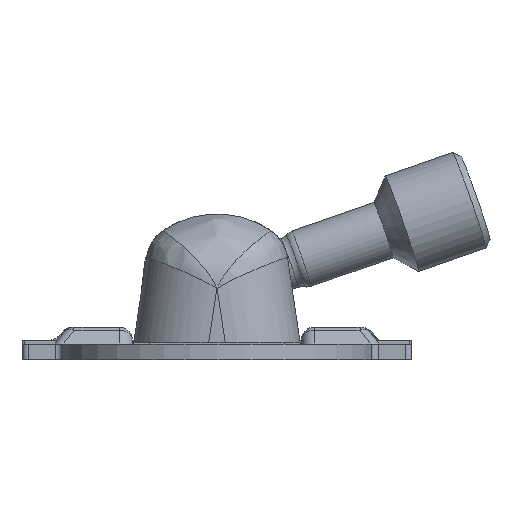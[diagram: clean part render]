
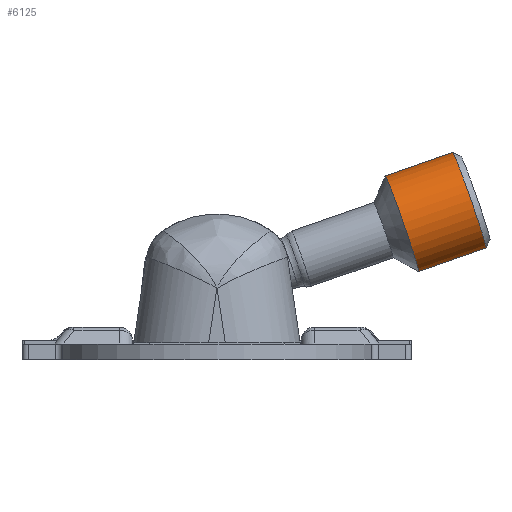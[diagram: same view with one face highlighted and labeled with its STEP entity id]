
A CAD part, left-side view. The second image highlights one B-rep face of the part: STEP entity #6125.
In plain terms, the highlighted cylindrical face has radius 3.9 mm (diameter 7.8 mm), a full revolution.
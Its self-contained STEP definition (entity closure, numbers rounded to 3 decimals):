
#64=FACE_BOUND('',#817,.T.);
#432=FACE_OUTER_BOUND('',#816,.T.);
#816=EDGE_LOOP('',(#4611));
#817=EDGE_LOOP('',(#4612));
#1244=CIRCLE('',#6586,3.9);
#1246=CIRCLE('',#6589,3.9);
#2748=VERTEX_POINT('',#9737);
#2750=VERTEX_POINT('',#9742);
#3426=EDGE_CURVE('',#2748,#2748,#1244,.T.);
#3428=EDGE_CURVE('',#2750,#2750,#1246,.T.);
#4611=ORIENTED_EDGE('',*,*,#3428,.F.);
#4612=ORIENTED_EDGE('',*,*,#3426,.F.);
#5919=CYLINDRICAL_SURFACE('',#6588,3.9);
#6125=ADVANCED_FACE('',(#432,#64),#5919,.T.);
#6586=AXIS2_PLACEMENT_3D('',#9738,#7594,#7595);
#6588=AXIS2_PLACEMENT_3D('',#9741,#7598,#7599);
#6589=AXIS2_PLACEMENT_3D('',#9743,#7600,#7601);
#7594=DIRECTION('center_axis',(0.035,0.999,0.));
#7595=DIRECTION('ref_axis',(0.999,-0.035,0.));
#7598=DIRECTION('center_axis',(0.035,0.999,0.));
#7599=DIRECTION('ref_axis',(-0.999,0.035,0.));
#7600=DIRECTION('center_axis',(-0.035,-0.999,0.));
#7601=DIRECTION('ref_axis',(0.999,-0.035,0.));
#9737=CARTESIAN_POINT('',(36.681,20.695,0.));
#9738=CARTESIAN_POINT('Origin',(40.578,20.559,0.));
#9741=CARTESIAN_POINT('Origin',(40.465,17.311,0.));
#9742=CARTESIAN_POINT('',(36.489,15.198,0.));
#9743=CARTESIAN_POINT('Origin',(40.386,15.062,0.));
